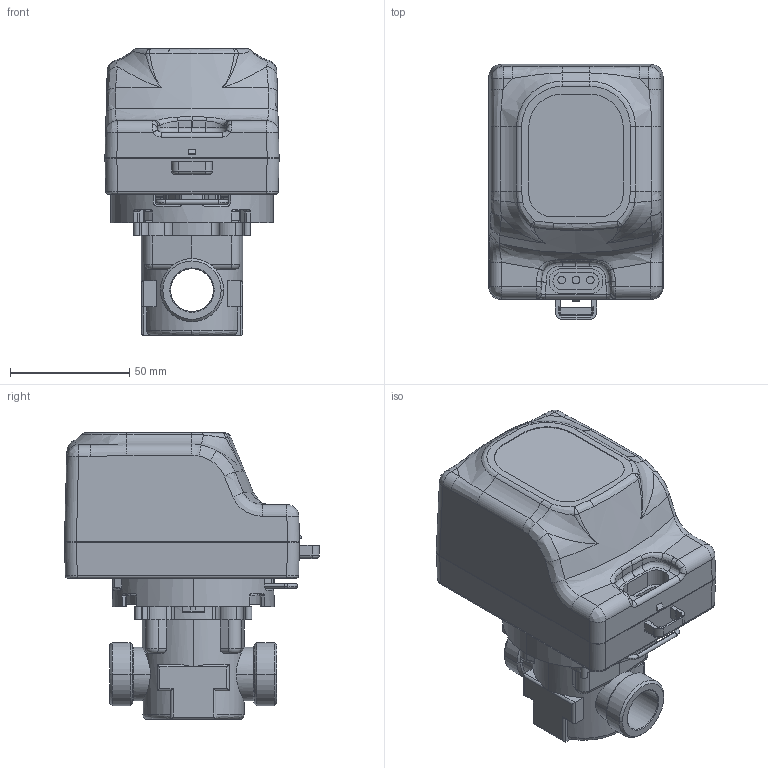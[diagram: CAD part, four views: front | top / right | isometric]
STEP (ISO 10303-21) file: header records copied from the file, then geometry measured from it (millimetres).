
FILE_DESCRIPTION (( 'STEP AP214' ), '1' );
FILE_NAME ('1644210.STEP', '2023-10-11T08:23:15', ( '' ), ( '' ), 'SwSTEP 2.0', 'SolidWorks 2022', '' );
FILE_SCHEMA (( 'AUTOMOTIVE_DESIGN' ));
Length unit declared in the file: millimetre
Products named in the file (21): 801 000 0246_O-Ring _X_F83,5x1,5mm EPDM_2; 05 01 001168_Federklammer; ISO 7380-1-M5x10-10.9_Flachkopfschrauben_0_3; Elektroantrieb_AZV_Baugruppe; 709 000 0022 _W_X_FCplast-LiKo Schraube 3x12 T10_2; 709 000 0022 _W_X_FCplast-LiKo Schraube 3x12 T10_5; ISO 7380-1-M5x10-10.9_Flachkopfschrauben_0_4; 709 000 0022 _W_X_FCplast-LiKo Schraube 3x12 T10; 05 01 001164_Codierclip gr_X_FCn AZV; ISO 7380-1-M5x10-10.9_Flachkopfschrauben_0; 05 01 001140_Geh_X_E4use AZV G3_4 2-Wege MS; 05 01 001171_Geh_X_E4use-UT Antrieb AZV; 1644210; Normteile_Baugruppe; 900000 4000_Sicherungsscheibe _X_F84 verz. BN833; 05 01 001170_Geh_X_E4use-OT Antrieb AZV; 709 000 0022 _W_X_FCplast-LiKo Schraube 3x12 T10_4; 709 000 0022 _W_X_FCplast-LiKo Schraube 3x12 T10_6; 05 01 001165_Stellungsanzeiger AZV; ISO 7380-1-M5x10-10.9_Flachkopfschrauben_0_2; 05 01 001160_Aufnahmesockel _X_D838 AZV
Assembly tree (21 placements, depth 3):
  1644210
    Normteile_Baugruppe
      ISO 7380-1-M5x10-10.9_Flachkopfschrauben_0
      ISO 7380-1-M5x10-10.9_Flachkopfschrauben_0_2
      ISO 7380-1-M5x10-10.9_Flachkopfschrauben_0_3
      ISO 7380-1-M5x10-10.9_Flachkopfschrauben_0_4
    05 01 001164_Codierclip gr_X_FCn AZV  x2
    05 01 001168_Federklammer
    Elektroantrieb_AZV_Baugruppe
      801 000 0246_O-Ring _X_F83,5x1,5mm EPDM_2
      709 000 0022 _W_X_FCplast-LiKo Schraube 3x12 T10
      709 000 0022 _W_X_FCplast-LiKo Schraube 3x12 T10_2
      709 000 0022 _W_X_FCplast-LiKo Schraube 3x12 T10_4
      709 000 0022 _W_X_FCplast-LiKo Schraube 3x12 T10_5
      709 000 0022 _W_X_FCplast-LiKo Schraube 3x12 T10_6
      900000 4000_Sicherungsscheibe _X_F84 verz. BN833
      05 01 001170_Geh_X_E4use-OT Antrieb AZV
      05 01 001171_Geh_X_E4use-UT Antrieb AZV
    05 01 001165_Stellungsanzeiger AZV
    05 01 001140_Geh_X_E4use AZV G3_4 2-Wege MS
    05 01 001160_Aufnahmesockel _X_D838 AZV
Bounding box: 73 x 106.91 x 120.25 mm (x, y, z)
Volume: 134996.5 mm3; surface area: 124034.4 mm2
Topology: 19 solids, 19 shells, 2865 faces, 7456 edges, 4621 vertices
Faces by surface type: plane 1021, cylinder 1010, bspline 524, cone 284, torus 26
Entity records: 161769 total; most frequent: CARTESIAN_POINT 68645, ORIENTED_EDGE 13984, DIRECTION 11769, EDGE_CURVE 6992, VERTEX_POINT 4381, AXIS2_PLACEMENT_3D 4303, LINE 3163, VECTOR 3163
